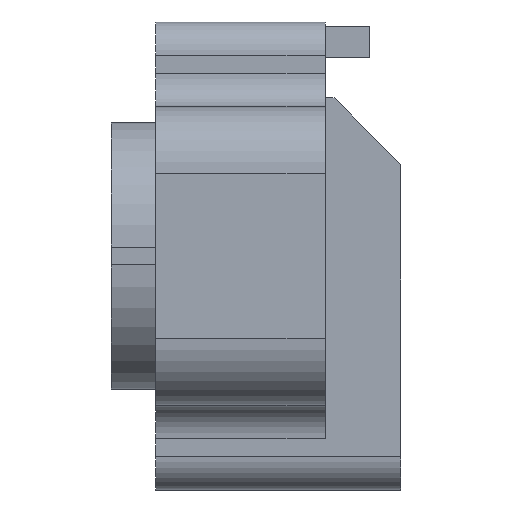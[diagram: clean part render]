
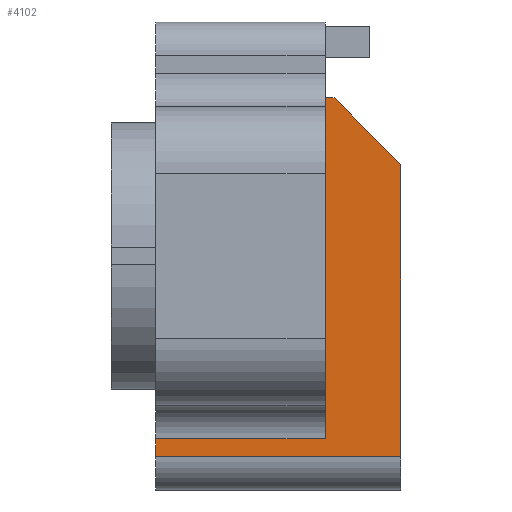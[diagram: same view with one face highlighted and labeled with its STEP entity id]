
A CAD part, left-side view. The second image highlights one B-rep face of the part: STEP entity #4102.
In plain terms, the highlighted planar face has unit normal (-1, 0, 0).
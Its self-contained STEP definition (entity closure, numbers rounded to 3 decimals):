
#82=DIRECTION('',(0.,0.,-1.));
#83=VECTOR('',#82,7.65);
#84=CARTESIAN_POINT('',(-8.9,-3.8,3.55));
#85=LINE('',#84,#83);
#513=DIRECTION('',(0.,0.,-1.));
#514=VECTOR('',#513,0.4);
#515=CARTESIAN_POINT('',(-8.9,0.,-4.1));
#516=LINE('',#515,#514);
#782=DIRECTION('',(0.,1.,0.));
#783=VECTOR('',#782,3.8);
#784=CARTESIAN_POINT('',(-8.9,-3.8,-4.1));
#785=LINE('',#784,#783);
#790=DIRECTION('',(0.,-0.707,-0.707));
#791=VECTOR('',#790,2.121);
#792=CARTESIAN_POINT('',(-8.9,-4.,3.55));
#793=LINE('',#792,#791);
#794=DIRECTION('',(0.,0.,-1.));
#795=VECTOR('',#794,6.55);
#796=CARTESIAN_POINT('',(-8.9,-5.5,2.05));
#797=LINE('',#796,#795);
#798=DIRECTION('',(0.,-1.,0.));
#799=VECTOR('',#798,0.2);
#800=CARTESIAN_POINT('',(-8.9,-3.8,3.55));
#801=LINE('',#800,#799);
#834=DIRECTION('',(0.,-1.,0.));
#835=VECTOR('',#834,5.5);
#836=CARTESIAN_POINT('',(-8.9,0.,-4.5));
#837=LINE('',#836,#835);
#2449=CARTESIAN_POINT('',(-8.9,0.,-4.1));
#2450=VERTEX_POINT('',#2449);
#2451=CARTESIAN_POINT('',(-8.9,0.,-4.5));
#2452=VERTEX_POINT('',#2451);
#2577=CARTESIAN_POINT('',(-8.9,-5.5,-4.5));
#2578=VERTEX_POINT('',#2577);
#2579=CARTESIAN_POINT('',(-8.9,-5.5,2.05));
#2580=VERTEX_POINT('',#2579);
#2593=CARTESIAN_POINT('',(-8.9,-4.,3.55));
#2594=VERTEX_POINT('',#2593);
#2595=CARTESIAN_POINT('',(-8.9,-3.8,-4.1));
#2596=VERTEX_POINT('',#2595);
#2597=CARTESIAN_POINT('',(-8.9,-3.8,3.55));
#2598=VERTEX_POINT('',#2597);
#4085=CARTESIAN_POINT('',(-8.9,0.,-5.25));
#4086=DIRECTION('',(-1.,0.,0.));
#4087=DIRECTION('',(0.,0.,1.));
#4088=AXIS2_PLACEMENT_3D('',#4085,#4086,#4087);
#4089=PLANE('',#4088);
#4091=ORIENTED_EDGE('',*,*,#4090,.T.);
#4092=ORIENTED_EDGE('',*,*,#3656,.T.);
#4094=ORIENTED_EDGE('',*,*,#4093,.F.);
#4095=ORIENTED_EDGE('',*,*,#3762,.F.);
#4096=ORIENTED_EDGE('',*,*,#4077,.F.);
#4097=ORIENTED_EDGE('',*,*,#3390,.F.);
#4099=ORIENTED_EDGE('',*,*,#4098,.T.);
#4100=EDGE_LOOP('',(#4091,#4092,#4094,#4095,#4096,#4097,#4099));
#4101=FACE_OUTER_BOUND('',#4100,.F.);
#4102=ADVANCED_FACE('',(#4101),#4089,.T.);
#3390=EDGE_CURVE('',#2598,#2596,#85,.T.);
#3656=EDGE_CURVE('',#2580,#2578,#797,.T.);
#3762=EDGE_CURVE('',#2450,#2452,#516,.T.);
#4077=EDGE_CURVE('',#2596,#2450,#785,.T.);
#4090=EDGE_CURVE('',#2594,#2580,#793,.T.);
#4093=EDGE_CURVE('',#2452,#2578,#837,.T.);
#4098=EDGE_CURVE('',#2598,#2594,#801,.T.);
